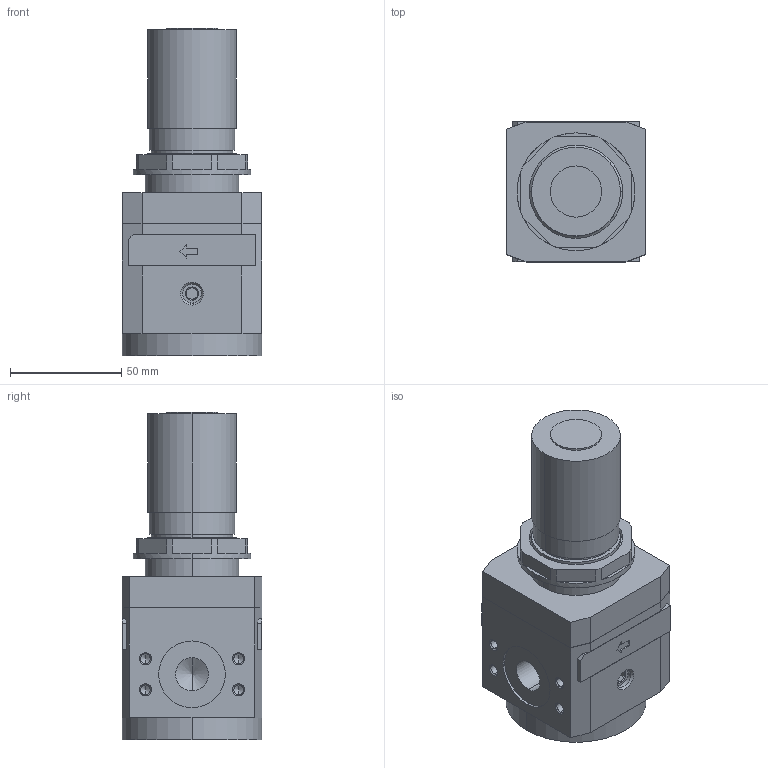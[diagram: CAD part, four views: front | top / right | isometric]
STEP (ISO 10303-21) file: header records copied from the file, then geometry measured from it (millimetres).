
FILE_DESCRIPTION((''),'2;1');
FILE_NAME('I:\DOC-EDP\Lib-3d\FRL\17322A_.stp','2003-06-16T15:00:37',('maffial1'),(''),'Autodesk Inventor 7','Autodesk Inventor 7','');
FILE_SCHEMA(('AUTOMOTIVE_DESIGN { 1 0 10303 214 1 1 1 1 }'));
Length unit declared in the file: millimetre
Products named in the file (4): 17322A_; 17322A_(1); RS_1702_12; RK_1701_020
Assembly tree (3 placements, depth 2):
  17322A_
    17322A_(1)
    RS_1702_12
    RK_1701_020
Bounding box: 63 x 63 x 147.5 mm (x, y, z)
Volume: 366968.5 mm3; surface area: 50260.4 mm2
Topology: 3 solids, 5 shells, 220 faces, 527 edges, 319 vertices
Faces by surface type: bspline 96, plane 80, cylinder 28, cone 12, torus 4
Entity records: 7198 total; most frequent: CARTESIAN_POINT 2369, ORIENTED_EDGE 1006, DIRECTION 922, EDGE_CURVE 503, VECTOR 322, LINE 322, VERTEX_POINT 319, AXIS2_PLACEMENT_3D 300
